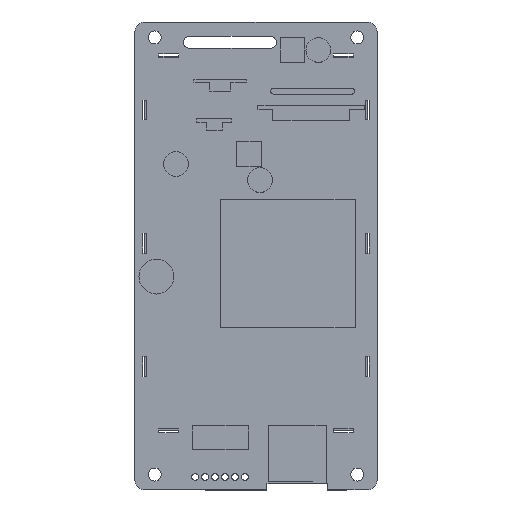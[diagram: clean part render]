
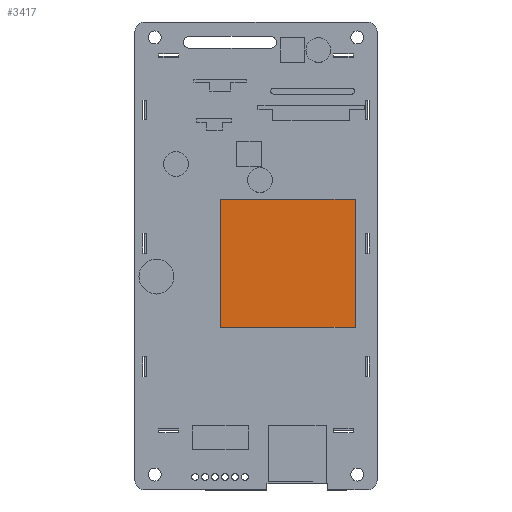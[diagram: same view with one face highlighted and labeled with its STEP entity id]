
A CAD part, top view. The second image highlights one B-rep face of the part: STEP entity #3417.
In plain terms, the highlighted planar face has unit normal (0, 0, 1).
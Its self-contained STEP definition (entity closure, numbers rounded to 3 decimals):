
#93 = EDGE_LOOP ( 'NONE', ( #2933, #8720, #3981, #4120 ) ) ;
#164 = CARTESIAN_POINT ( 'NONE',  ( -1286.447, 1594.803, 5.3 ) ) ;
#253 = LINE ( 'NONE', #2707, #4124 ) ;
#275 = CARTESIAN_POINT ( 'NONE',  ( -9.106, 14.541, 5.3 ) ) ;
#714 = CARTESIAN_POINT ( 'NONE',  ( 25.311, 14.541, 5.3 ) ) ;
#1020 = DIRECTION ( 'NONE',  ( 1., 0., 0. ) ) ;
#1053 = EDGE_CURVE ( 'NONE', #7610, #8860, #9235, .T. ) ;
#1500 = VERTEX_POINT ( 'NONE', #2375 ) ;
#1903 = EDGE_CURVE ( 'NONE', #8860, #7489, #2584, .T. ) ;
#2375 = CARTESIAN_POINT ( 'NONE',  ( -9.106, -18.225, 5.3 ) ) ;
#2436 = LINE ( 'NONE', #275, #6114 ) ;
#2584 = LINE ( 'NONE', #7956, #6495 ) ;
#2707 = CARTESIAN_POINT ( 'NONE',  ( -9.106, -18.225, 5.3 ) ) ;
#2933 = ORIENTED_EDGE ( 'NONE', *, *, #1903, .F. ) ;
#3345 = VECTOR ( 'NONE', #5079, 1000. ) ;
#3369 = CARTESIAN_POINT ( 'NONE',  ( 25.311, -18.225, 5.3 ) ) ;
#3417 = ADVANCED_FACE ( 'NONE', ( #7165 ), #6810, .T. ) ;
#3981 = ORIENTED_EDGE ( 'NONE', *, *, #6790, .F. ) ;
#4013 = DIRECTION ( 'NONE',  ( -1., 0., 0. ) ) ;
#4120 = ORIENTED_EDGE ( 'NONE', *, *, #7497, .F. ) ;
#4124 = VECTOR ( 'NONE', #4013, 1000. ) ;
#4554 = DIRECTION ( 'NONE',  ( 0., 0., 1. ) ) ;
#5079 = DIRECTION ( 'NONE',  ( 1., 0., 0. ) ) ;
#6114 = VECTOR ( 'NONE', #6390, 1000. ) ;
#6218 = CARTESIAN_POINT ( 'NONE',  ( 25.311, 14.541, 5.3 ) ) ;
#6390 = DIRECTION ( 'NONE',  ( 0., 1., 0. ) ) ;
#6495 = VECTOR ( 'NONE', #8950, 1000. ) ;
#6790 = EDGE_CURVE ( 'NONE', #1500, #7610, #2436, .T. ) ;
#6810 = PLANE ( 'NONE',  #8004 ) ;
#7165 = FACE_OUTER_BOUND ( 'NONE', #93, .T. ) ;
#7489 = VERTEX_POINT ( 'NONE', #3369 ) ;
#7497 = EDGE_CURVE ( 'NONE', #7489, #1500, #253, .T. ) ;
#7610 = VERTEX_POINT ( 'NONE', #8097 ) ;
#7956 = CARTESIAN_POINT ( 'NONE',  ( 25.311, -18.225, 5.3 ) ) ;
#8004 = AXIS2_PLACEMENT_3D ( 'NONE', #164, #4554, #1020 ) ;
#8097 = CARTESIAN_POINT ( 'NONE',  ( -9.106, 14.541, 5.3 ) ) ;
#8720 = ORIENTED_EDGE ( 'NONE', *, *, #1053, .F. ) ;
#8860 = VERTEX_POINT ( 'NONE', #6218 ) ;
#8950 = DIRECTION ( 'NONE',  ( 0., -1., 0. ) ) ;
#9235 = LINE ( 'NONE', #714, #3345 ) ;
